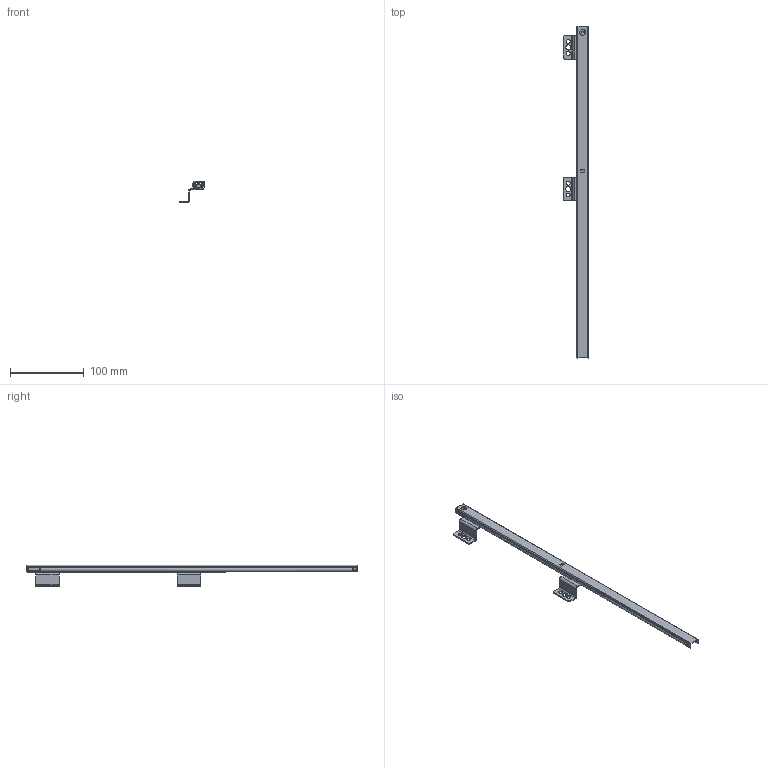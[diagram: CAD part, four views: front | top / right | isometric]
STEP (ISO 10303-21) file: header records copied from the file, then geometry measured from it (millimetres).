
FILE_DESCRIPTION (( 'STEP AP203' ), '1' );
FILE_NAME ('BBP kulièkový výsuv pravý pro tužkovník_382222_3D.STEP', '2020-11-27T11:59:47', ( '' ), ( '' ), 'SwSTEP 2.0', 'SolidWorks 2019', '' );
FILE_SCHEMA (( 'CONFIG_CONTROL_DESIGN' ));
Length unit declared in the file: millimetre
Products named in the file (6): 4 017 002 001B^BBP kulièkový výsuv pravý pro tužkovník_382222_3D; Kugel 3mm^BBP kulièkový výsuv pravý pro tužkovník_382222_3D; BBP kulièkový výsuv pravý pro tužkovník_382222_3D; 1 017 002 450 BBP^BBP kulièkový výsuv pravý pro tužkovník_382222_3D; 4 017 004 56 Winkel^BBP kulièkový výsuv pravý pro tužkovník_382222_3D; 1 017 010 269^BBP kulièkový výsuv pravý pro tužkovník_382222_3D
Assembly tree (7 placements, depth 2):
  BBP kulièkový výsuv pravý pro tužkovník_382222_3D
    1 017 010 269^BBP kulièkový výsuv pravý pro tužkovník_382222_3D
    1 017 002 450 BBP^BBP kulièkový výsuv pravý pro tužkovník_382222_3D
    Kugel 3mm^BBP kulièkový výsuv pravý pro tužkovník_382222_3D  x2
    4 017 002 001B^BBP kulièkový výsuv pravý pro tužkovník_382222_3D
    4 017 004 56 Winkel^BBP kulièkový výsuv pravý pro tužkovník_382222_3D  x2
Bounding box: 35.01 x 450 x 28.8 mm (x, y, z)
Volume: 23136.4 mm3; surface area: 45763.9 mm2
Topology: 7 solids, 7 shells, 259 faces, 709 edges, 468 vertices
Faces by surface type: plane 141, cylinder 98, torus 16, sphere 4
Entity records: 8233 total; most frequent: CARTESIAN_POINT 1906, ORIENTED_EDGE 1214, DIRECTION 1153, EDGE_CURVE 607, VERTEX_POINT 400, AXIS2_PLACEMENT_3D 385, VECTOR 383, LINE 383
